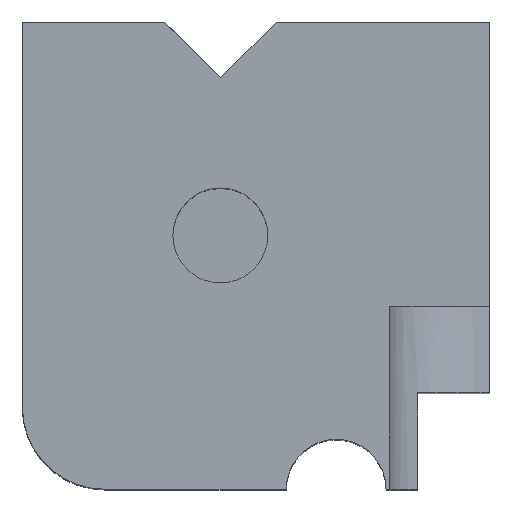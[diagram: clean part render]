
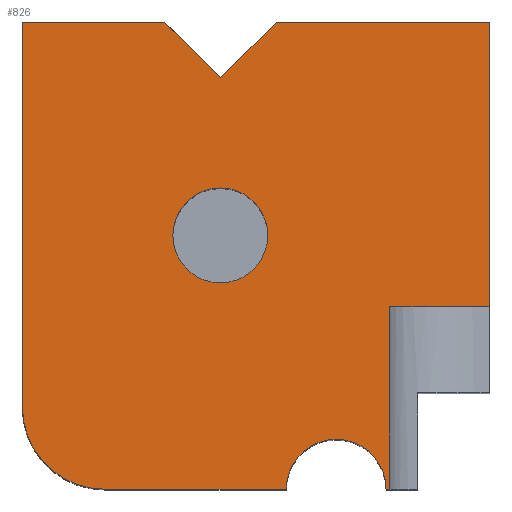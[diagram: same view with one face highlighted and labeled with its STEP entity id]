
A CAD part, top view. The second image highlights one B-rep face of the part: STEP entity #826.
In plain terms, the highlighted planar face has unit normal (0, 0, 1).
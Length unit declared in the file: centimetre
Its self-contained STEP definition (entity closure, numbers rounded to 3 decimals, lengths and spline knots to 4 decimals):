
#6 = DIRECTION ( 'NONE',  ( 1., 0., 0. ) ) ;
#16 = DIRECTION ( 'NONE',  ( 1., 0., 0. ) ) ;
#18 = ORIENTED_EDGE ( 'NONE', *, *, #484, .T. ) ;
#24 = CARTESIAN_POINT ( 'NONE',  ( 322.1339, 543.1952, 1000. ) ) ;
#32 = EDGE_CURVE ( 'NONE', #878, #1107, #446, .T. ) ;
#33 = DIRECTION ( 'NONE',  ( 0., -1., 0. ) ) ;
#60 = DIRECTION ( 'NONE',  ( 1., 0., 0. ) ) ;
#79 = CIRCLE ( 'NONE', #185, 101.614 ) ;
#80 = VECTOR ( 'NONE', #1061, 100. ) ;
#82 = VECTOR ( 'NONE', #643, 100. ) ;
#96 = ORIENTED_EDGE ( 'NONE', *, *, #596, .T. ) ;
#107 = AXIS2_PLACEMENT_3D ( 'NONE', #1054, #782, #60 ) ;
#109 = DIRECTION ( 'NONE',  ( 1., 0., 0. ) ) ;
#121 = LINE ( 'NONE', #313, #82 ) ;
#179 = DIRECTION ( 'NONE',  ( 0., 0., -1. ) ) ;
#185 = AXIS2_PLACEMENT_3D ( 'NONE', #213, #1104, #499 ) ;
#201 = EDGE_CURVE ( 'NONE', #1141, #1171, #79, .T. ) ;
#203 = CARTESIAN_POINT ( 'NONE',  ( 304.94, 1000., 1000. ) ) ;
#207 = VECTOR ( 'NONE', #1073, 100. ) ;
#213 = CARTESIAN_POINT ( 'NONE',  ( 423.7479, 543.1952, 1000. ) ) ;
#226 = VERTEX_POINT ( 'NONE', #909 ) ;
#233 = VERTEX_POINT ( 'NONE', #1120 ) ;
#235 = VECTOR ( 'NONE', #1221, 100. ) ;
#244 = VECTOR ( 'NONE', #268, 100. ) ;
#261 = CIRCLE ( 'NONE', #1259, 106.7836 ) ;
#265 = AXIS2_PLACEMENT_3D ( 'NONE', #486, #509, #109 ) ;
#268 = DIRECTION ( 'NONE',  ( 0., -1., 0. ) ) ;
#275 = CARTESIAN_POINT ( 'NONE',  ( 671.6207, 0., 1000. ) ) ;
#280 = DIRECTION ( 'NONE',  ( -1., 0., 0. ) ) ;
#295 = LINE ( 'NONE', #879, #80 ) ;
#296 = PLANE ( 'NONE',  #906 ) ;
#303 = DIRECTION ( 'NONE',  ( 0., 0., 1. ) ) ;
#313 = CARTESIAN_POINT ( 'NONE',  ( 304.94, 1000., 1000. ) ) ;
#320 = CARTESIAN_POINT ( 'NONE',  ( 525.362, 543.1952, 1000. ) ) ;
#329 = CARTESIAN_POINT ( 'NONE',  ( 0., 0., 1000. ) ) ;
#330 = EDGE_CURVE ( 'NONE', #226, #746, #1063, .T. ) ;
#332 = VERTEX_POINT ( 'NONE', #935 ) ;
#379 = LINE ( 'NONE', #708, #810 ) ;
#391 = EDGE_LOOP ( 'NONE', ( #1214, #18, #831, #1085, #604, #545, #936, #818, #723, #773, #96, #1127 ) ) ;
#420 = VERTEX_POINT ( 'NONE', #1094 ) ;
#434 = CARTESIAN_POINT ( 'NONE',  ( 0., 1000., 1000. ) ) ;
#446 = LINE ( 'NONE', #1019, #1059 ) ;
#484 = EDGE_CURVE ( 'NONE', #567, #599, #295, .T. ) ;
#486 = CARTESIAN_POINT ( 'NONE',  ( 423.7479, 543.1952, 1000. ) ) ;
#494 = FACE_OUTER_BOUND ( 'NONE', #391, .T. ) ;
#499 = DIRECTION ( 'NONE',  ( 1., 0., 0. ) ) ;
#509 = DIRECTION ( 'NONE',  ( 0., 0., 1. ) ) ;
#545 = ORIENTED_EDGE ( 'NONE', *, *, #1080, .T. ) ;
#553 = EDGE_CURVE ( 'NONE', #233, #878, #1264, .T. ) ;
#567 = VERTEX_POINT ( 'NONE', #893 ) ;
#575 = ORIENTED_EDGE ( 'NONE', *, *, #201, .F. ) ;
#579 = CARTESIAN_POINT ( 'NONE',  ( 543.462, 1000., 1000. ) ) ;
#587 = CARTESIAN_POINT ( 'NONE',  ( 0., 0., 1000. ) ) ;
#596 = EDGE_CURVE ( 'NONE', #1044, #603, #261, .T. ) ;
#599 = VERTEX_POINT ( 'NONE', #1079 ) ;
#603 = VERTEX_POINT ( 'NONE', #668 ) ;
#604 = ORIENTED_EDGE ( 'NONE', *, *, #32, .T. ) ;
#606 = EDGE_CURVE ( 'NONE', #567, #332, #961, .T. ) ;
#640 = EDGE_CURVE ( 'NONE', #420, #226, #1231, .T. ) ;
#643 = DIRECTION ( 'NONE',  ( -0.707, 0.707, 0. ) ) ;
#648 = EDGE_CURVE ( 'NONE', #851, #420, #1244, .T. ) ;
#662 = CARTESIAN_POINT ( 'NONE',  ( 175.7054, 0., 1000. ) ) ;
#668 = CARTESIAN_POINT ( 'NONE',  ( 778.4043, 0., 1000. ) ) ;
#708 = CARTESIAN_POINT ( 'NONE',  ( 0., 0., 1000. ) ) ;
#723 = ORIENTED_EDGE ( 'NONE', *, *, #330, .T. ) ;
#725 = DIRECTION ( 'NONE',  ( -0.707, -0.707, 0. ) ) ;
#730 = VECTOR ( 'NONE', #33, 100. ) ;
#738 = DIRECTION ( 'NONE',  ( -1., 0., 0. ) ) ;
#746 = VERTEX_POINT ( 'NONE', #662 ) ;
#768 = CARTESIAN_POINT ( 'NONE',  ( 0., 1000., 1000. ) ) ;
#773 = ORIENTED_EDGE ( 'NONE', *, *, #951, .T. ) ;
#782 = DIRECTION ( 'NONE',  ( 0., 0., 1. ) ) ;
#810 = VECTOR ( 'NONE', #6, 100. ) ;
#818 = ORIENTED_EDGE ( 'NONE', *, *, #640, .T. ) ;
#825 = CARTESIAN_POINT ( 'NONE',  ( 1000., 1000., 1000. ) ) ;
#826 = ADVANCED_FACE ( 'NONE', ( #494, #1105 ), #296, .T. ) ;
#831 = ORIENTED_EDGE ( 'NONE', *, *, #1150, .T. ) ;
#843 = VECTOR ( 'NONE', #16, 100. ) ;
#851 = VERTEX_POINT ( 'NONE', #203 ) ;
#878 = VERTEX_POINT ( 'NONE', #579 ) ;
#879 = CARTESIAN_POINT ( 'NONE',  ( 0., 390.8963, 1000. ) ) ;
#893 = CARTESIAN_POINT ( 'NONE',  ( 786.4744, 390.8963, 1000. ) ) ;
#897 = CIRCLE ( 'NONE', #265, 101.614 ) ;
#906 = AXIS2_PLACEMENT_3D ( 'NONE', #587, #303, #1274 ) ;
#908 = EDGE_CURVE ( 'NONE', #1171, #1141, #897, .T. ) ;
#909 = CARTESIAN_POINT ( 'NONE',  ( 0., 175.7054, 1000. ) ) ;
#935 = CARTESIAN_POINT ( 'NONE',  ( 786.4744, 0., 1000. ) ) ;
#936 = ORIENTED_EDGE ( 'NONE', *, *, #648, .T. ) ;
#937 = LINE ( 'NONE', #825, #235 ) ;
#944 = CARTESIAN_POINT ( 'NONE',  ( 0., 1000., 1000. ) ) ;
#951 = EDGE_CURVE ( 'NONE', #746, #1044, #379, .T. ) ;
#961 = LINE ( 'NONE', #1159, #244 ) ;
#1019 = CARTESIAN_POINT ( 'NONE',  ( 424.201, 880.739, 1000. ) ) ;
#1044 = VERTEX_POINT ( 'NONE', #1228 ) ;
#1054 = CARTESIAN_POINT ( 'NONE',  ( 175.7054, 175.7054, 1000. ) ) ;
#1055 = VECTOR ( 'NONE', #738, 100. ) ;
#1059 = VECTOR ( 'NONE', #725, 100. ) ;
#1061 = DIRECTION ( 'NONE',  ( 1., 0., 0. ) ) ;
#1063 = CIRCLE ( 'NONE', #107, 175.7054 ) ;
#1073 = DIRECTION ( 'NONE',  ( -1., 0., 0. ) ) ;
#1076 = ORIENTED_EDGE ( 'NONE', *, *, #908, .F. ) ;
#1079 = CARTESIAN_POINT ( 'NONE',  ( 1000., 390.8963, 1000. ) ) ;
#1080 = EDGE_CURVE ( 'NONE', #1107, #851, #121, .T. ) ;
#1085 = ORIENTED_EDGE ( 'NONE', *, *, #553, .T. ) ;
#1094 = CARTESIAN_POINT ( 'NONE',  ( 0., 1000., 1000. ) ) ;
#1104 = DIRECTION ( 'NONE',  ( 0., 0., 1. ) ) ;
#1105 = FACE_BOUND ( 'NONE', #1227, .T. ) ;
#1107 = VERTEX_POINT ( 'NONE', #1131 ) ;
#1120 = CARTESIAN_POINT ( 'NONE',  ( 1000., 1000., 1000. ) ) ;
#1125 = EDGE_CURVE ( 'NONE', #603, #332, #1211, .T. ) ;
#1127 = ORIENTED_EDGE ( 'NONE', *, *, #1125, .T. ) ;
#1131 = CARTESIAN_POINT ( 'NONE',  ( 424.201, 880.739, 1000. ) ) ;
#1141 = VERTEX_POINT ( 'NONE', #24 ) ;
#1150 = EDGE_CURVE ( 'NONE', #599, #233, #937, .T. ) ;
#1159 = CARTESIAN_POINT ( 'NONE',  ( 786.4744, 390.8963, 1000. ) ) ;
#1171 = VERTEX_POINT ( 'NONE', #320 ) ;
#1211 = LINE ( 'NONE', #329, #843 ) ;
#1214 = ORIENTED_EDGE ( 'NONE', *, *, #606, .F. ) ;
#1221 = DIRECTION ( 'NONE',  ( 0., 1., 0. ) ) ;
#1227 = EDGE_LOOP ( 'NONE', ( #1076, #575 ) ) ;
#1228 = CARTESIAN_POINT ( 'NONE',  ( 564.837, 0., 1000. ) ) ;
#1231 = LINE ( 'NONE', #944, #730 ) ;
#1244 = LINE ( 'NONE', #434, #1055 ) ;
#1259 = AXIS2_PLACEMENT_3D ( 'NONE', #275, #179, #280 ) ;
#1264 = LINE ( 'NONE', #768, #207 ) ;
#1274 = DIRECTION ( 'NONE',  ( 1., 0., 0. ) ) ;
